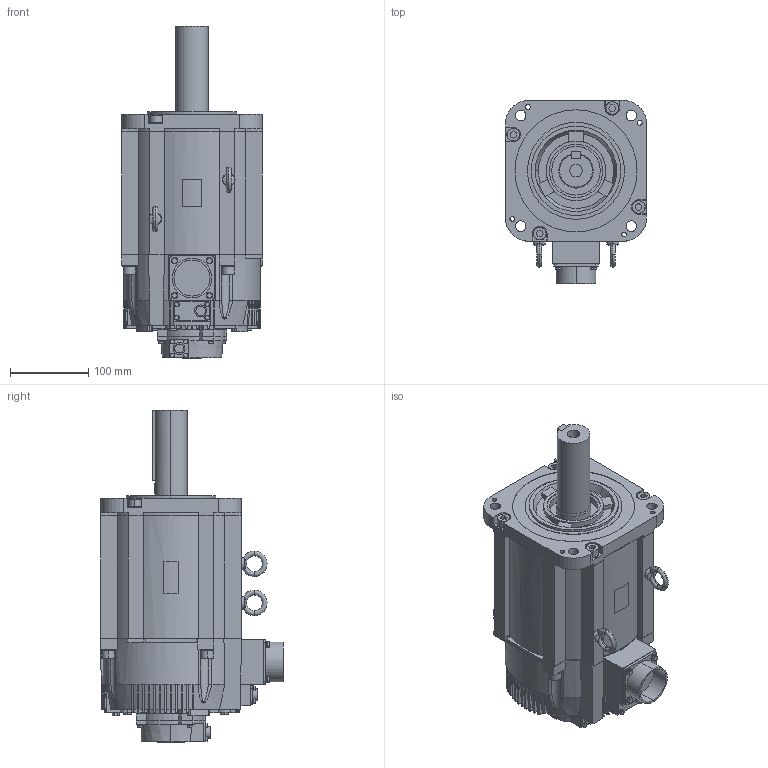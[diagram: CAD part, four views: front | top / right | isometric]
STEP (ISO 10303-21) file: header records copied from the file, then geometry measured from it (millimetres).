
FILE_DESCRIPTION (( 'STEP AP203' ), '1' );
FILE_NAME ('sgm7g_75a_a6c.STEP', '2016-02-24T03:26:50', ( '匠エンジニアリング山之内' ), ( 'TAKUMI-Engniaring' ), 'SwSTEP 2.0', 'SolidWorks 2006303', '' );
FILE_SCHEMA (( 'CONFIG_CONTROL_DESIGN' ));
Length unit declared in the file: millimetre
Products named in the file (4): sgm7g_75a_a6c_eyebolt; sgm7g_75a_a6c_base; sgm7g_75a_a6c; sgm7g_75a_a6c_key
Assembly tree (4 placements, depth 2):
  sgm7g_75a_a6c
    sgm7g_75a_a6c_eyebolt  x2
    sgm7g_75a_a6c_key
    sgm7g_75a_a6c_base
Bounding box: 180 x 233.75 x 424.1 mm (x, y, z)
Volume: 7527393.9 mm3; surface area: 358348.8 mm2
Topology: 4 solids, 4 shells, 1073 faces, 2759 edges, 1797 vertices
Faces by surface type: plane 653, cylinder 310, cone 98, torus 8, bspline 4
Entity records: 34344 total; most frequent: CARTESIAN_POINT 7551, DIRECTION 5581, ORIENTED_EDGE 5464, EDGE_CURVE 2732, AXIS2_PLACEMENT_3D 1992, VERTEX_POINT 1781, LINE 1597, VECTOR 1597
